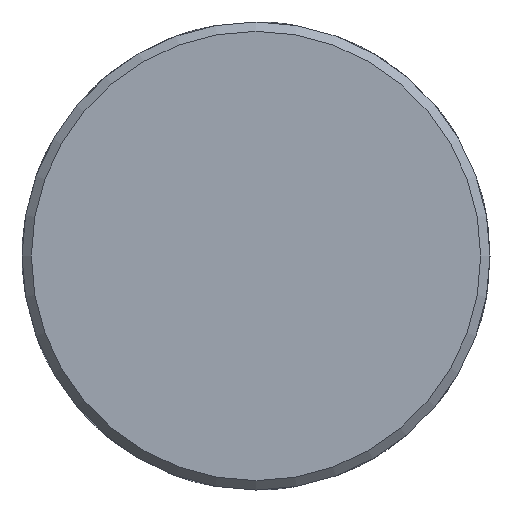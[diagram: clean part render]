
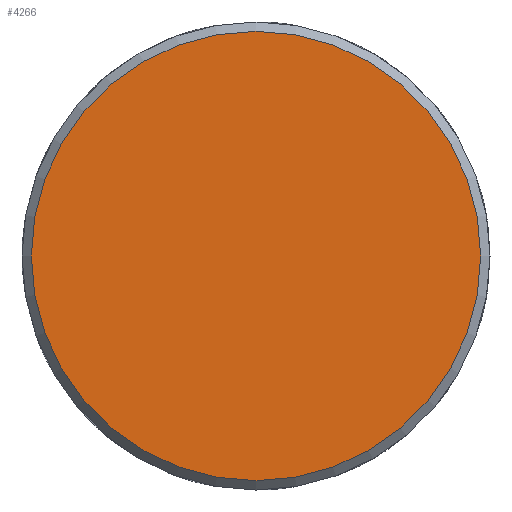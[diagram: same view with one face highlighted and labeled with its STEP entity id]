
A CAD part, left-side view. The second image highlights one B-rep face of the part: STEP entity #4266.
In plain terms, the highlighted planar face has unit normal (-1, 0, 0).
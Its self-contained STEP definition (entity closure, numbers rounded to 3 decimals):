
#4174=CARTESIAN_POINT('',(-125.0,-48.,0.));
#4175=VERTEX_POINT('',#4174);
#4176=CARTESIAN_POINT('',(-125.0,0.,0.));
#4177=DIRECTION('',(-1.0,0.0,0.0));
#4178=DIRECTION('',(0.0,-1.0,0.));
#4179=AXIS2_PLACEMENT_3D('',#4176,#4177,#4178);
#4180=CIRCLE('',#4179,48.);
#4181=EDGE_CURVE('',#4175,#4175,#4180,.T.);
#4258=CARTESIAN_POINT('',(-125.0,-52.8,-52.8));
#4259=DIRECTION('',(1.0,0.0,0.0));
#4260=DIRECTION('',(0.0,1.0,0.0));
#4261=AXIS2_PLACEMENT_3D('',#4258,#4259,#4260);
#4262=PLANE('',#4261);
#4263=ORIENTED_EDGE('',*,*,#4181,.T.);
#4264=EDGE_LOOP('',(#4263));
#4265=FACE_OUTER_BOUND('',#4264,.T.);
#4266=ADVANCED_FACE('',(#4265),#4262,.F.);
